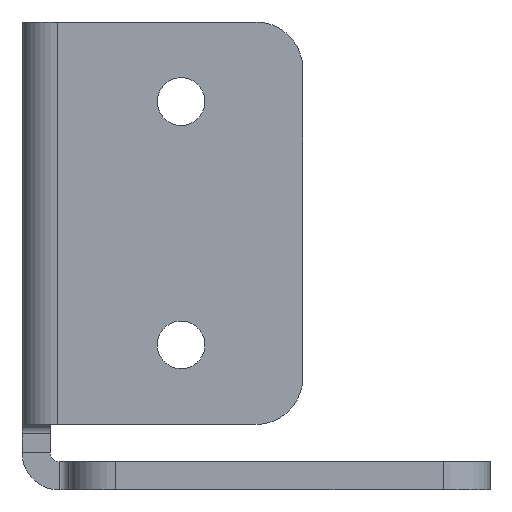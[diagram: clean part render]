
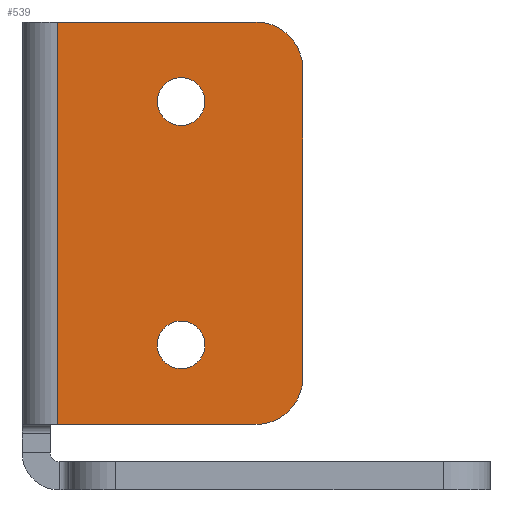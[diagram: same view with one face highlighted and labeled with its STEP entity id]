
A CAD part, left-side view. The second image highlights one B-rep face of the part: STEP entity #539.
In plain terms, the highlighted planar face has unit normal (-1, 0, 0).
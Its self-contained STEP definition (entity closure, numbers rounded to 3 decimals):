
#539=ADVANCED_FACE('',(#1098,#1100,#1102),#1104,.F.);
#1098=FACE_BOUND('',#1099,.T.);
#1099=EDGE_LOOP('',(#1523,#1524,#1525,#1526,#1527,#1528));
#1100=FACE_BOUND('',#1101,.T.);
#1101=EDGE_LOOP('',(#1529));
#1102=FACE_BOUND('',#1103,.T.);
#1103=EDGE_LOOP('',(#1530));
#1104=PLANE('',#1105);
#1105=AXIS2_PLACEMENT_3D('',#1106,#1107,#1108);
#1106=CARTESIAN_POINT('',(-183.8,184.342,-0.456));
#1107=DIRECTION('',(1.,0.,0.));
#1108=DIRECTION('',(0.,-1.,0.));
#1523=ORIENTED_EDGE('',*,*,#1757,.F.);
#1524=ORIENTED_EDGE('',*,*,#1758,.F.);
#1525=ORIENTED_EDGE('',*,*,#1728,.F.);
#1526=ORIENTED_EDGE('',*,*,#1759,.F.);
#1527=ORIENTED_EDGE('',*,*,#1760,.F.);
#1528=ORIENTED_EDGE('',*,*,#1761,.F.);
#1529=ORIENTED_EDGE('',*,*,#1762,.T.);
#1530=ORIENTED_EDGE('',*,*,#1763,.T.);
#1728=EDGE_CURVE('',#2004,#2005,#2006,.T.);
#1757=EDGE_CURVE('',#2047,#2048,#2049,.F.);
#1758=EDGE_CURVE('',#2005,#2047,#2050,.T.);
#1759=EDGE_CURVE('',#2051,#2004,#2052,.T.);
#1760=EDGE_CURVE('',#2053,#2051,#2054,.F.);
#1761=EDGE_CURVE('',#2048,#2053,#2055,.T.);
#1762=EDGE_CURVE('',#2056,#2056,#2057,.T.);
#1763=EDGE_CURVE('',#2058,#2058,#2059,.T.);
#2004=VERTEX_POINT('',#2617);
#2005=VERTEX_POINT('',#2618);
#2006=LINE('',#2619,#2620);
#2047=VERTEX_POINT('',#2727);
#2048=VERTEX_POINT('',#2728);
#2049=CIRCLE('',#2729,5.);
#2050=LINE('',#2733,#2734);
#2051=VERTEX_POINT('',#2736);
#2052=LINE('',#2737,#2738);
#2053=VERTEX_POINT('',#2740);
#2054=CIRCLE('',#2741,5.);
#2055=LINE('',#2745,#2746);
#2056=VERTEX_POINT('',#2748);
#2057=CIRCLE('',#2749,2.55);
#2058=VERTEX_POINT('',#2753);
#2059=CIRCLE('',#2754,2.55);
#2617=CARTESIAN_POINT('',(-183.8,1.2,7.));
#2618=CARTESIAN_POINT('',(-183.8,1.2,50.));
#2619=CARTESIAN_POINT('',(-183.8,1.2,7.));
#2620=VECTOR('',#2621,1.);
#2621=DIRECTION('',(0.,0.,1.));
#2727=CARTESIAN_POINT('',(-183.8,-20.,50.));
#2728=CARTESIAN_POINT('',(-183.8,-25.,45.));
#2729=AXIS2_PLACEMENT_3D('',#2730,#2731,#2732);
#2730=CARTESIAN_POINT('',(-183.8,-20.,45.));
#2731=DIRECTION('',(-1.,0.,0.));
#2732=DIRECTION('',(0.,-1.,0.));
#2733=CARTESIAN_POINT('',(-183.8,1.2,50.));
#2734=VECTOR('',#2735,1.);
#2735=DIRECTION('',(0.,-1.,0.));
#2736=CARTESIAN_POINT('',(-183.8,-20.,7.));
#2737=CARTESIAN_POINT('',(-183.8,-20.,7.));
#2738=VECTOR('',#2739,1.);
#2739=DIRECTION('',(0.,1.,0.));
#2740=CARTESIAN_POINT('',(-183.8,-25.,12.));
#2741=AXIS2_PLACEMENT_3D('',#2742,#2743,#2744);
#2742=CARTESIAN_POINT('',(-183.8,-20.,12.));
#2743=DIRECTION('',(-1.,0.,0.));
#2744=DIRECTION('',(0.,0.,-1.));
#2745=CARTESIAN_POINT('',(-183.8,-25.,45.));
#2746=VECTOR('',#2747,1.);
#2747=DIRECTION('',(0.,0.,-1.));
#2748=CARTESIAN_POINT('',(-183.8,-12.,18.05));
#2749=AXIS2_PLACEMENT_3D('',#2750,#2751,#2752);
#2750=CARTESIAN_POINT('',(-183.8,-12.,15.5));
#2751=DIRECTION('',(1.,0.,0.));
#2752=DIRECTION('',(-0.,-0.,1.));
#2753=CARTESIAN_POINT('',(-183.8,-12.,44.05));
#2754=AXIS2_PLACEMENT_3D('',#2755,#2756,#2757);
#2755=CARTESIAN_POINT('',(-183.8,-12.,41.5));
#2756=DIRECTION('',(1.,0.,0.));
#2757=DIRECTION('',(-0.,-0.,1.));
